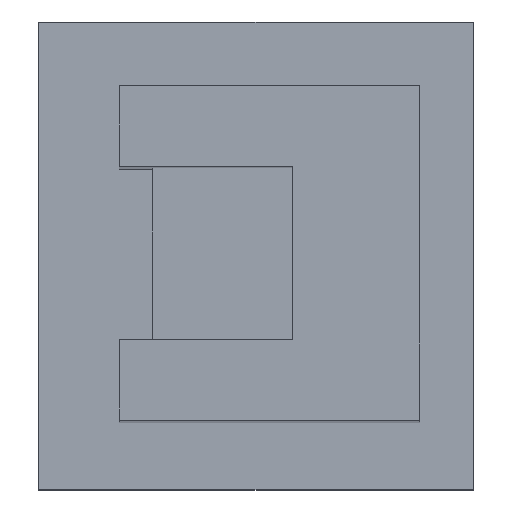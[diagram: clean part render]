
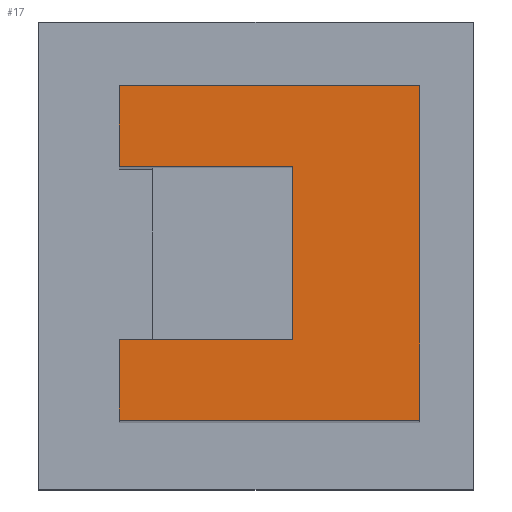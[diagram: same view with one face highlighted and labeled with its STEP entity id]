
A CAD part, top view. The second image highlights one B-rep face of the part: STEP entity #17.
In plain terms, the highlighted planar face has unit normal (0, 0, 1).
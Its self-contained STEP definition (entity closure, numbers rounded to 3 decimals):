
#17 = ADVANCED_FACE('',(#18),#32,.T.);
#18 = FACE_BOUND('',#19,.T.);
#19 = EDGE_LOOP('',(#20,#55,#83,#111,#139,#167,#195,#223));
#20 = ORIENTED_EDGE('',*,*,#21,.T.);
#21 = EDGE_CURVE('',#22,#24,#26,.T.);
#22 = VERTEX_POINT('',#23);
#23 = CARTESIAN_POINT('',(1.2,1.,27.));
#24 = VERTEX_POINT('',#25);
#25 = CARTESIAN_POINT('',(5.7,1.,27.));
#26 = SURFACE_CURVE('',#27,(#31,#43),.PCURVE_S1.);
#27 = LINE('',#28,#29);
#28 = CARTESIAN_POINT('',(1.2,1.,27.));
#29 = VECTOR('',#30,1.);
#30 = DIRECTION('',(1.,0.,0.));
#31 = PCURVE('',#32,#37);
#32 = PLANE('',#33);
#33 = AXIS2_PLACEMENT_3D('',#34,#35,#36);
#34 = CARTESIAN_POINT('',(3.8,1.,27.));
#35 = DIRECTION('',(0.,0.,1.));
#36 = DIRECTION('',(1.,0.,0.));
#37 = DEFINITIONAL_REPRESENTATION('',(#38),#42);
#38 = LINE('',#39,#40);
#39 = CARTESIAN_POINT('',(-2.6,0.));
#40 = VECTOR('',#41,1.);
#41 = DIRECTION('',(1.,0.));
#42 = ( GEOMETRIC_REPRESENTATION_CONTEXT(2) 
PARAMETRIC_REPRESENTATION_CONTEXT() REPRESENTATION_CONTEXT('2D SPACE',''
  ) );
#43 = PCURVE('',#44,#49);
#44 = PLANE('',#45);
#45 = AXIS2_PLACEMENT_3D('',#46,#47,#48);
#46 = CARTESIAN_POINT('',(3.8,1.,1.8));
#47 = DIRECTION('',(0.,1.,0.));
#48 = DIRECTION('',(0.,0.,1.));
#49 = DEFINITIONAL_REPRESENTATION('',(#50),#54);
#50 = LINE('',#51,#52);
#51 = CARTESIAN_POINT('',(25.2,-2.6));
#52 = VECTOR('',#53,1.);
#53 = DIRECTION('',(0.,1.));
#54 = ( GEOMETRIC_REPRESENTATION_CONTEXT(2) 
PARAMETRIC_REPRESENTATION_CONTEXT() REPRESENTATION_CONTEXT('2D SPACE',''
  ) );
#55 = ORIENTED_EDGE('',*,*,#56,.T.);
#56 = EDGE_CURVE('',#24,#57,#59,.T.);
#57 = VERTEX_POINT('',#58);
#58 = CARTESIAN_POINT('',(5.7,6.,27.));
#59 = SURFACE_CURVE('',#60,(#64,#71),.PCURVE_S1.);
#60 = LINE('',#61,#62);
#61 = CARTESIAN_POINT('',(5.7,1.,27.));
#62 = VECTOR('',#63,1.);
#63 = DIRECTION('',(0.,1.,0.));
#64 = PCURVE('',#32,#65);
#65 = DEFINITIONAL_REPRESENTATION('',(#66),#70);
#66 = LINE('',#67,#68);
#67 = CARTESIAN_POINT('',(1.9,0.));
#68 = VECTOR('',#69,1.);
#69 = DIRECTION('',(0.,1.));
#70 = ( GEOMETRIC_REPRESENTATION_CONTEXT(2) 
PARAMETRIC_REPRESENTATION_CONTEXT() REPRESENTATION_CONTEXT('2D SPACE',''
  ) );
#71 = PCURVE('',#72,#77);
#72 = PLANE('',#73);
#73 = AXIS2_PLACEMENT_3D('',#74,#75,#76);
#74 = CARTESIAN_POINT('',(5.7,1.,1.8));
#75 = DIRECTION('',(1.,0.,0.));
#76 = DIRECTION('',(0.,0.,1.));
#77 = DEFINITIONAL_REPRESENTATION('',(#78),#82);
#78 = LINE('',#79,#80);
#79 = CARTESIAN_POINT('',(25.2,0.));
#80 = VECTOR('',#81,1.);
#81 = DIRECTION('',(0.,-1.));
#82 = ( GEOMETRIC_REPRESENTATION_CONTEXT(2) 
PARAMETRIC_REPRESENTATION_CONTEXT() REPRESENTATION_CONTEXT('2D SPACE',''
  ) );
#83 = ORIENTED_EDGE('',*,*,#84,.T.);
#84 = EDGE_CURVE('',#57,#85,#87,.T.);
#85 = VERTEX_POINT('',#86);
#86 = CARTESIAN_POINT('',(1.2,6.,27.));
#87 = SURFACE_CURVE('',#88,(#92,#99),.PCURVE_S1.);
#88 = LINE('',#89,#90);
#89 = CARTESIAN_POINT('',(5.7,6.,27.));
#90 = VECTOR('',#91,1.);
#91 = DIRECTION('',(-1.,0.,0.));
#92 = PCURVE('',#32,#93);
#93 = DEFINITIONAL_REPRESENTATION('',(#94),#98);
#94 = LINE('',#95,#96);
#95 = CARTESIAN_POINT('',(1.9,5.));
#96 = VECTOR('',#97,1.);
#97 = DIRECTION('',(-1.,0.));
#98 = ( GEOMETRIC_REPRESENTATION_CONTEXT(2) 
PARAMETRIC_REPRESENTATION_CONTEXT() REPRESENTATION_CONTEXT('2D SPACE',''
  ) );
#99 = PCURVE('',#100,#105);
#100 = PLANE('',#101);
#101 = AXIS2_PLACEMENT_3D('',#102,#103,#104);
#102 = CARTESIAN_POINT('',(3.8,6.,1.8));
#103 = DIRECTION('',(0.,1.,0.));
#104 = DIRECTION('',(0.,0.,1.));
#105 = DEFINITIONAL_REPRESENTATION('',(#106),#110);
#106 = LINE('',#107,#108);
#107 = CARTESIAN_POINT('',(25.2,1.9));
#108 = VECTOR('',#109,1.);
#109 = DIRECTION('',(0.,-1.));
#110 = ( GEOMETRIC_REPRESENTATION_CONTEXT(2) 
PARAMETRIC_REPRESENTATION_CONTEXT() REPRESENTATION_CONTEXT('2D SPACE',''
  ) );
#111 = ORIENTED_EDGE('',*,*,#112,.F.);
#112 = EDGE_CURVE('',#113,#85,#115,.T.);
#113 = VERTEX_POINT('',#114);
#114 = CARTESIAN_POINT('',(1.2,4.8,27.));
#115 = SURFACE_CURVE('',#116,(#120,#127),.PCURVE_S1.);
#116 = LINE('',#117,#118);
#117 = CARTESIAN_POINT('',(1.2,4.8,27.));
#118 = VECTOR('',#119,1.);
#119 = DIRECTION('',(0.,1.,0.));
#120 = PCURVE('',#32,#121);
#121 = DEFINITIONAL_REPRESENTATION('',(#122),#126);
#122 = LINE('',#123,#124);
#123 = CARTESIAN_POINT('',(-2.6,3.8));
#124 = VECTOR('',#125,1.);
#125 = DIRECTION('',(0.,1.));
#126 = ( GEOMETRIC_REPRESENTATION_CONTEXT(2) 
PARAMETRIC_REPRESENTATION_CONTEXT() REPRESENTATION_CONTEXT('2D SPACE',''
  ) );
#127 = PCURVE('',#128,#133);
#128 = PLANE('',#129);
#129 = AXIS2_PLACEMENT_3D('',#130,#131,#132);
#130 = CARTESIAN_POINT('',(1.2,4.8,1.8));
#131 = DIRECTION('',(1.,0.,0.));
#132 = DIRECTION('',(0.,0.,1.));
#133 = DEFINITIONAL_REPRESENTATION('',(#134),#138);
#134 = LINE('',#135,#136);
#135 = CARTESIAN_POINT('',(25.2,0.));
#136 = VECTOR('',#137,1.);
#137 = DIRECTION('',(0.,-1.));
#138 = ( GEOMETRIC_REPRESENTATION_CONTEXT(2) 
PARAMETRIC_REPRESENTATION_CONTEXT() REPRESENTATION_CONTEXT('2D SPACE',''
  ) );
#139 = ORIENTED_EDGE('',*,*,#140,.T.);
#140 = EDGE_CURVE('',#113,#141,#143,.T.);
#141 = VERTEX_POINT('',#142);
#142 = CARTESIAN_POINT('',(3.8,4.8,27.));
#143 = SURFACE_CURVE('',#144,(#148,#155),.PCURVE_S1.);
#144 = LINE('',#145,#146);
#145 = CARTESIAN_POINT('',(1.2,4.8,27.));
#146 = VECTOR('',#147,1.);
#147 = DIRECTION('',(1.,0.,0.));
#148 = PCURVE('',#32,#149);
#149 = DEFINITIONAL_REPRESENTATION('',(#150),#154);
#150 = LINE('',#151,#152);
#151 = CARTESIAN_POINT('',(-2.6,3.8));
#152 = VECTOR('',#153,1.);
#153 = DIRECTION('',(1.,0.));
#154 = ( GEOMETRIC_REPRESENTATION_CONTEXT(2) 
PARAMETRIC_REPRESENTATION_CONTEXT() REPRESENTATION_CONTEXT('2D SPACE',''
  ) );
#155 = PCURVE('',#156,#161);
#156 = PLANE('',#157);
#157 = AXIS2_PLACEMENT_3D('',#158,#159,#160);
#158 = CARTESIAN_POINT('',(1.2,4.8,1.8));
#159 = DIRECTION('',(0.,1.,0.));
#160 = DIRECTION('',(0.,0.,1.));
#161 = DEFINITIONAL_REPRESENTATION('',(#162),#166);
#162 = LINE('',#163,#164);
#163 = CARTESIAN_POINT('',(25.2,0.));
#164 = VECTOR('',#165,1.);
#165 = DIRECTION('',(0.,1.));
#166 = ( GEOMETRIC_REPRESENTATION_CONTEXT(2) 
PARAMETRIC_REPRESENTATION_CONTEXT() REPRESENTATION_CONTEXT('2D SPACE',''
  ) );
#167 = ORIENTED_EDGE('',*,*,#168,.F.);
#168 = EDGE_CURVE('',#169,#141,#171,.T.);
#169 = VERTEX_POINT('',#170);
#170 = CARTESIAN_POINT('',(3.8,2.2,27.));
#171 = SURFACE_CURVE('',#172,(#176,#183),.PCURVE_S1.);
#172 = LINE('',#173,#174);
#173 = CARTESIAN_POINT('',(3.8,1.,27.));
#174 = VECTOR('',#175,1.);
#175 = DIRECTION('',(0.,1.,0.));
#176 = PCURVE('',#32,#177);
#177 = DEFINITIONAL_REPRESENTATION('',(#178),#182);
#178 = LINE('',#179,#180);
#179 = CARTESIAN_POINT('',(0.,0.));
#180 = VECTOR('',#181,1.);
#181 = DIRECTION('',(0.,1.));
#182 = ( GEOMETRIC_REPRESENTATION_CONTEXT(2) 
PARAMETRIC_REPRESENTATION_CONTEXT() REPRESENTATION_CONTEXT('2D SPACE',''
  ) );
#183 = PCURVE('',#184,#189);
#184 = PLANE('',#185);
#185 = AXIS2_PLACEMENT_3D('',#186,#187,#188);
#186 = CARTESIAN_POINT('',(3.8,1.,1.8));
#187 = DIRECTION('',(1.,0.,0.));
#188 = DIRECTION('',(0.,0.,1.));
#189 = DEFINITIONAL_REPRESENTATION('',(#190),#194);
#190 = LINE('',#191,#192);
#191 = CARTESIAN_POINT('',(25.2,0.));
#192 = VECTOR('',#193,1.);
#193 = DIRECTION('',(0.,-1.));
#194 = ( GEOMETRIC_REPRESENTATION_CONTEXT(2) 
PARAMETRIC_REPRESENTATION_CONTEXT() REPRESENTATION_CONTEXT('2D SPACE',''
  ) );
#195 = ORIENTED_EDGE('',*,*,#196,.F.);
#196 = EDGE_CURVE('',#197,#169,#199,.T.);
#197 = VERTEX_POINT('',#198);
#198 = CARTESIAN_POINT('',(1.2,2.2,27.));
#199 = SURFACE_CURVE('',#200,(#204,#211),.PCURVE_S1.);
#200 = LINE('',#201,#202);
#201 = CARTESIAN_POINT('',(1.2,2.2,27.));
#202 = VECTOR('',#203,1.);
#203 = DIRECTION('',(1.,0.,0.));
#204 = PCURVE('',#32,#205);
#205 = DEFINITIONAL_REPRESENTATION('',(#206),#210);
#206 = LINE('',#207,#208);
#207 = CARTESIAN_POINT('',(-2.6,1.2));
#208 = VECTOR('',#209,1.);
#209 = DIRECTION('',(1.,0.));
#210 = ( GEOMETRIC_REPRESENTATION_CONTEXT(2) 
PARAMETRIC_REPRESENTATION_CONTEXT() REPRESENTATION_CONTEXT('2D SPACE',''
  ) );
#211 = PCURVE('',#212,#217);
#212 = PLANE('',#213);
#213 = AXIS2_PLACEMENT_3D('',#214,#215,#216);
#214 = CARTESIAN_POINT('',(1.2,2.2,1.8));
#215 = DIRECTION('',(0.,1.,0.));
#216 = DIRECTION('',(0.,0.,1.));
#217 = DEFINITIONAL_REPRESENTATION('',(#218),#222);
#218 = LINE('',#219,#220);
#219 = CARTESIAN_POINT('',(25.2,0.));
#220 = VECTOR('',#221,1.);
#221 = DIRECTION('',(0.,1.));
#222 = ( GEOMETRIC_REPRESENTATION_CONTEXT(2) 
PARAMETRIC_REPRESENTATION_CONTEXT() REPRESENTATION_CONTEXT('2D SPACE',''
  ) );
#223 = ORIENTED_EDGE('',*,*,#224,.F.);
#224 = EDGE_CURVE('',#22,#197,#225,.T.);
#225 = SURFACE_CURVE('',#226,(#230,#237),.PCURVE_S1.);
#226 = LINE('',#227,#228);
#227 = CARTESIAN_POINT('',(1.2,1.,27.));
#228 = VECTOR('',#229,1.);
#229 = DIRECTION('',(0.,1.,0.));
#230 = PCURVE('',#32,#231);
#231 = DEFINITIONAL_REPRESENTATION('',(#232),#236);
#232 = LINE('',#233,#234);
#233 = CARTESIAN_POINT('',(-2.6,0.));
#234 = VECTOR('',#235,1.);
#235 = DIRECTION('',(0.,1.));
#236 = ( GEOMETRIC_REPRESENTATION_CONTEXT(2) 
PARAMETRIC_REPRESENTATION_CONTEXT() REPRESENTATION_CONTEXT('2D SPACE',''
  ) );
#237 = PCURVE('',#238,#243);
#238 = PLANE('',#239);
#239 = AXIS2_PLACEMENT_3D('',#240,#241,#242);
#240 = CARTESIAN_POINT('',(1.2,1.,1.8));
#241 = DIRECTION('',(1.,0.,0.));
#242 = DIRECTION('',(0.,0.,1.));
#243 = DEFINITIONAL_REPRESENTATION('',(#244),#248);
#244 = LINE('',#245,#246);
#245 = CARTESIAN_POINT('',(25.2,0.));
#246 = VECTOR('',#247,1.);
#247 = DIRECTION('',(0.,-1.));
#248 = ( GEOMETRIC_REPRESENTATION_CONTEXT(2) 
PARAMETRIC_REPRESENTATION_CONTEXT() REPRESENTATION_CONTEXT('2D SPACE',''
  ) );
